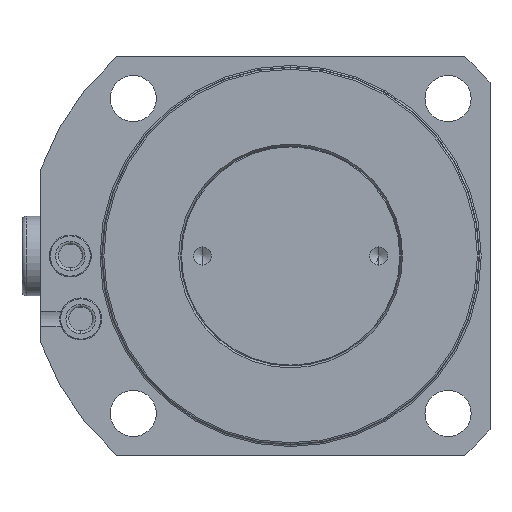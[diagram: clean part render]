
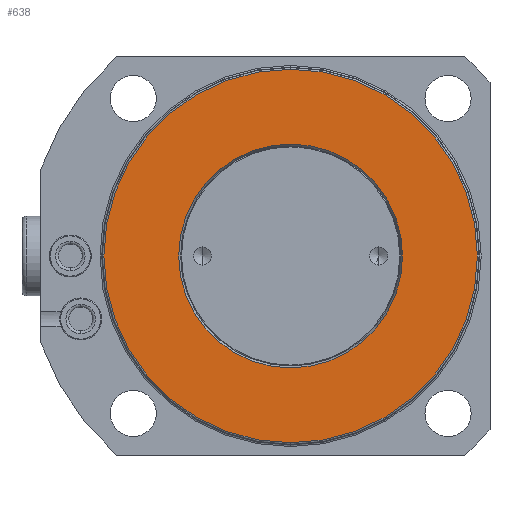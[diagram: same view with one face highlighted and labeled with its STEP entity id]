
A CAD part, front view. The second image highlights one B-rep face of the part: STEP entity #638.
In plain terms, the highlighted planar face has unit normal (0, -1, 0).
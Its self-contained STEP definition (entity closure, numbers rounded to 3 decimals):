
#338=PLANE('',#4491);
#410=FACE_BOUND('',#1235,.T.);
#411=FACE_BOUND('',#1236,.T.);
#638=ADVANCED_FACE('',(#410,#411),#338,.F.);
#1235=EDGE_LOOP('',(#2151,#2152));
#1236=EDGE_LOOP('',(#2153,#2154));
#2151=ORIENTED_EDGE('',*,*,#3556,.F.);
#2152=ORIENTED_EDGE('',*,*,#3620,.F.);
#2153=ORIENTED_EDGE('',*,*,#3561,.T.);
#2154=ORIENTED_EDGE('',*,*,#3619,.T.);
#3185=VERTEX_POINT('',#6770);
#3186=VERTEX_POINT('',#6771);
#3189=VERTEX_POINT('',#6779);
#3190=VERTEX_POINT('',#6781);
#3556=EDGE_CURVE('',#3185,#3186,#4072,.T.);
#3561=EDGE_CURVE('',#3190,#3189,#4076,.T.);
#3619=EDGE_CURVE('',#3189,#3190,#4104,.T.);
#3620=EDGE_CURVE('',#3186,#3185,#4105,.T.);
#4072=CIRCLE('',#4441,44.5);
#4076=CIRCLE('',#4446,26.662);
#4104=CIRCLE('',#4488,26.662);
#4105=CIRCLE('',#4490,44.5);
#4441=AXIS2_PLACEMENT_3D('',#6769,#5198,#5199);
#4446=AXIS2_PLACEMENT_3D('',#6780,#5209,#5210);
#4488=AXIS2_PLACEMENT_3D('',#6935,#5313,#5314);
#4490=AXIS2_PLACEMENT_3D('',#6937,#5317,#5318);
#4491=AXIS2_PLACEMENT_3D('',#6938,#5319,#5320);
#5198=DIRECTION('',(0.,1.,0.));
#5199=DIRECTION('',(0.,0.,1.));
#5209=DIRECTION('',(0.,1.,0.));
#5210=DIRECTION('',(0.,0.,1.));
#5313=DIRECTION('',(0.,1.,0.));
#5314=DIRECTION('',(0.,0.,1.));
#5317=DIRECTION('',(0.,1.,0.));
#5318=DIRECTION('',(0.,0.,1.));
#5319=DIRECTION('',(0.,1.,0.));
#5320=DIRECTION('',(0.,0.,-1.));
#6769=CARTESIAN_POINT('',(0.,3.5,0.));
#6770=CARTESIAN_POINT('',(0.,3.5,44.5));
#6771=CARTESIAN_POINT('',(0.,3.5,-44.5));
#6779=CARTESIAN_POINT('',(0.,3.5,26.662));
#6780=CARTESIAN_POINT('',(0.,3.5,0.));
#6781=CARTESIAN_POINT('',(0.,3.5,-26.662));
#6935=CARTESIAN_POINT('',(0.,3.5,0.));
#6937=CARTESIAN_POINT('',(0.,3.5,0.));
#6938=CARTESIAN_POINT('',(0.,3.5,0.));
